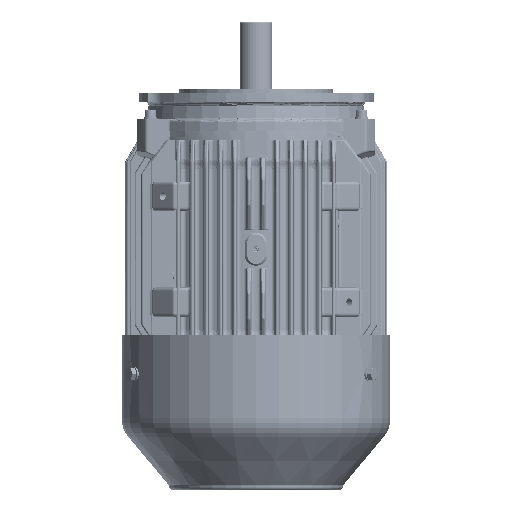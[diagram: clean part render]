
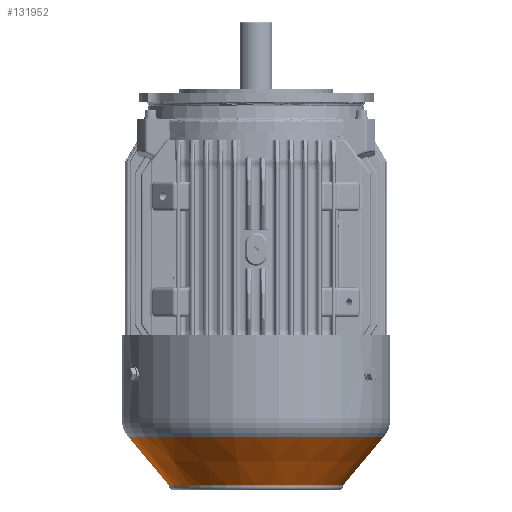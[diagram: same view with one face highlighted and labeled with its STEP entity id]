
A CAD part, front view. The second image highlights one B-rep face of the part: STEP entity #131952.
In plain terms, the highlighted conical face has half-angle 40 degrees and reference radius 74.468 mm.
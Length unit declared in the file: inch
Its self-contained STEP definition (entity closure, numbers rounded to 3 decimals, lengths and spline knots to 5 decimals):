
#5007 = ORIENTED_EDGE ( 'NONE', *, *, #242498, .F. ) ;
#24156 = ORIENTED_EDGE ( 'NONE', *, *, #75541, .F. ) ;
#30760 = EDGE_CURVE ( 'NONE', #212207, #133257, #92719, .T. ) ;
#33651 = CONICAL_SURFACE ( 'NONE', #162505, 2.93181, 0.698 ) ;
#37815 = CIRCLE ( 'NONE', #59764, 4.26579 ) ;
#54680 = CARTESIAN_POINT ( 'NONE',  ( 2.93181, 0., -7.86814 ) ) ;
#59764 = AXIS2_PLACEMENT_3D ( 'NONE', #196924, #131374, #156694 ) ;
#68357 = EDGE_LOOP ( 'NONE', ( #24156, #175949, #251449, #5007 ) ) ;
#71331 = LINE ( 'NONE', #103025, #272105 ) ;
#71449 = CARTESIAN_POINT ( 'NONE',  ( 4.26579, 0., -6.27836 ) ) ;
#75541 = EDGE_CURVE ( 'NONE', #212207, #138173, #71331, .T. ) ;
#91840 = VECTOR ( 'NONE', #285626, 39.37008 ) ;
#92719 = CIRCLE ( 'NONE', #255232, 2.93181 ) ;
#103025 = CARTESIAN_POINT ( 'NONE',  ( -2.93181, 0., -7.86814 ) ) ;
#117374 = CARTESIAN_POINT ( 'NONE',  ( 2.93181, 0., -7.86814 ) ) ;
#118501 = EDGE_CURVE ( 'NONE', #133257, #173712, #156193, .T. ) ;
#131374 = DIRECTION ( 'NONE',  ( 0., 0., 1. ) ) ;
#131952 = ADVANCED_FACE ( 'NONE', ( #294685 ), #33651, .T. ) ;
#133257 = VERTEX_POINT ( 'NONE', #54680 ) ;
#138173 = VERTEX_POINT ( 'NONE', #212459 ) ;
#142060 = DIRECTION ( 'NONE',  ( 1., 0., 0. ) ) ;
#156193 = LINE ( 'NONE', #117374, #91840 ) ;
#156694 = DIRECTION ( 'NONE',  ( 1., 0., 0. ) ) ;
#162505 = AXIS2_PLACEMENT_3D ( 'NONE', #256702, #212165, #234434 ) ;
#173712 = VERTEX_POINT ( 'NONE', #71449 ) ;
#175949 = ORIENTED_EDGE ( 'NONE', *, *, #30760, .T. ) ;
#184993 = CARTESIAN_POINT ( 'NONE',  ( -2.93181, 0., -7.86814 ) ) ;
#186526 = CARTESIAN_POINT ( 'NONE',  ( 0., 0., -7.86814 ) ) ;
#196924 = CARTESIAN_POINT ( 'NONE',  ( 0., 0., -6.27836 ) ) ;
#212165 = DIRECTION ( 'NONE',  ( 0., 0., 1. ) ) ;
#212207 = VERTEX_POINT ( 'NONE', #184993 ) ;
#212459 = CARTESIAN_POINT ( 'NONE',  ( -4.26579, 0., -6.27836 ) ) ;
#234434 = DIRECTION ( 'NONE',  ( 1., 0., 0. ) ) ;
#242498 = EDGE_CURVE ( 'NONE', #138173, #173712, #37815, .T. ) ;
#251449 = ORIENTED_EDGE ( 'NONE', *, *, #118501, .T. ) ;
#255232 = AXIS2_PLACEMENT_3D ( 'NONE', #186526, #287026, #142060 ) ;
#256702 = CARTESIAN_POINT ( 'NONE',  ( 0., 0., -7.86814 ) ) ;
#272105 = VECTOR ( 'NONE', #275440, 39.37008 ) ;
#275440 = DIRECTION ( 'NONE',  ( -0.643, 0., 0.766 ) ) ;
#285626 = DIRECTION ( 'NONE',  ( 0.643, 0., 0.766 ) ) ;
#287026 = DIRECTION ( 'NONE',  ( 0., 0., 1. ) ) ;
#294685 = FACE_OUTER_BOUND ( 'NONE', #68357, .T. ) ;
